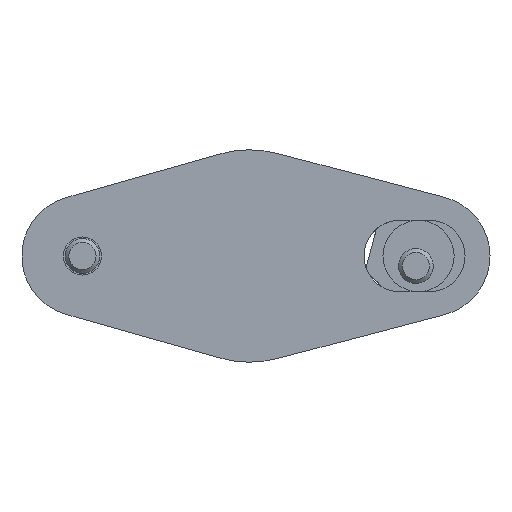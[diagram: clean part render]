
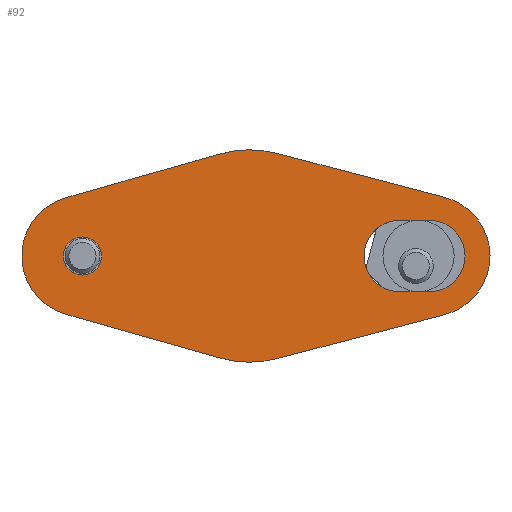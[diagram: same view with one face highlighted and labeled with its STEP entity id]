
A CAD part, front view. The second image highlights one B-rep face of the part: STEP entity #92.
In plain terms, the highlighted planar face has unit normal (0, -1, 0).
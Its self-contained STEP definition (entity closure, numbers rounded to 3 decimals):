
#92 = ADVANCED_FACE( '', ( #176, #177, #178 ), #179, .F. );
#176 = FACE_BOUND( '', #330, .T. );
#177 = FACE_BOUND( '', #331, .T. );
#178 = FACE_OUTER_BOUND( '', #332, .T. );
#179 = PLANE( '', #333 );
#330 = EDGE_LOOP( '', ( #576 ) );
#331 = EDGE_LOOP( '', ( #577, #578, #579, #580 ) );
#332 = EDGE_LOOP( '', ( #581, #582, #583, #584, #585, #586, #587, #588 ) );
#333 = AXIS2_PLACEMENT_3D( '', #589, #590, #591 );
#576 = ORIENTED_EDGE( '', *, *, #969, .T. );
#577 = ORIENTED_EDGE( '', *, *, #967, .T. );
#578 = ORIENTED_EDGE( '', *, *, #958, .T. );
#579 = ORIENTED_EDGE( '', *, *, #963, .T. );
#580 = ORIENTED_EDGE( '', *, *, #965, .T. );
#581 = ORIENTED_EDGE( '', *, *, #934, .F. );
#582 = ORIENTED_EDGE( '', *, *, #956, .F. );
#583 = ORIENTED_EDGE( '', *, *, #953, .F. );
#584 = ORIENTED_EDGE( '', *, *, #950, .F. );
#585 = ORIENTED_EDGE( '', *, *, #947, .F. );
#586 = ORIENTED_EDGE( '', *, *, #944, .F. );
#587 = ORIENTED_EDGE( '', *, *, #941, .F. );
#588 = ORIENTED_EDGE( '', *, *, #938, .F. );
#589 = CARTESIAN_POINT( '', ( -19.3, 0., 0. ) );
#590 = DIRECTION( '', ( 0., 1., 0. ) );
#591 = DIRECTION( '', ( 0., 0., 1. ) );
#934 = EDGE_CURVE( '', #1088, #1089, #1090, .T. );
#938 = EDGE_CURVE( '', #1089, #1096, #1097, .T. );
#941 = EDGE_CURVE( '', #1096, #1101, #1102, .T. );
#944 = EDGE_CURVE( '', #1101, #1106, #1107, .T. );
#947 = EDGE_CURVE( '', #1106, #1111, #1112, .T. );
#950 = EDGE_CURVE( '', #1111, #1116, #1117, .T. );
#953 = EDGE_CURVE( '', #1116, #1121, #1122, .T. );
#956 = EDGE_CURVE( '', #1121, #1088, #1126, .T. );
#958 = EDGE_CURVE( '', #1128, #1129, #1130, .T. );
#963 = EDGE_CURVE( '', #1129, #1135, #1136, .T. );
#965 = EDGE_CURVE( '', #1135, #1138, #1139, .T. );
#967 = EDGE_CURVE( '', #1138, #1128, #1141, .T. );
#969 = EDGE_CURVE( '', #1144, #1144, #1145, .T. );
#1088 = VERTEX_POINT( '', #1337 );
#1089 = VERTEX_POINT( '', #1338 );
#1090 = LINE( '', #1339, #1340 );
#1096 = VERTEX_POINT( '', #1349 );
#1097 = CIRCLE( '', #1350, 7. );
#1101 = VERTEX_POINT( '', #1355 );
#1102 = LINE( '', #1356, #1357 );
#1106 = VERTEX_POINT( '', #1363 );
#1107 = CIRCLE( '', #1364, 12.25 );
#1111 = VERTEX_POINT( '', #1369 );
#1112 = LINE( '', #1370, #1371 );
#1116 = VERTEX_POINT( '', #1377 );
#1117 = CIRCLE( '', #1378, 7. );
#1121 = VERTEX_POINT( '', #1383 );
#1122 = LINE( '', #1384, #1385 );
#1126 = CIRCLE( '', #1391, 12.25 );
#1128 = VERTEX_POINT( '', #1393 );
#1129 = VERTEX_POINT( '', #1394 );
#1130 = CIRCLE( '', #1395, 4.125 );
#1135 = VERTEX_POINT( '', #1402 );
#1136 = LINE( '', #1403, #1404 );
#1138 = VERTEX_POINT( '', #1407 );
#1139 = CIRCLE( '', #1408, 4.125 );
#1141 = LINE( '', #1411, #1412 );
#1144 = VERTEX_POINT( '', #1415 );
#1145 = CIRCLE( '', #1416, 2.2 );
#1337 = CARTESIAN_POINT( '', ( -3.332, 0., -11.788 ) );
#1338 = CARTESIAN_POINT( '', ( -21.204, 0., -6.736 ) );
#1339 = CARTESIAN_POINT( '', ( -3.332, 0., -11.788 ) );
#1340 = VECTOR( '', #1649, 1000. );
#1349 = CARTESIAN_POINT( '', ( -21.204, 0., 6.736 ) );
#1350 = AXIS2_PLACEMENT_3D( '', #1653, #1654, #1655 );
#1355 = CARTESIAN_POINT( '', ( -3.332, 0., 11.788 ) );
#1356 = CARTESIAN_POINT( '', ( -21.204, 0., 6.736 ) );
#1357 = VECTOR( '', #1660, 1000. );
#1363 = CARTESIAN_POINT( '', ( 3.107, 0., 11.849 ) );
#1364 = AXIS2_PLACEMENT_3D( '', #1663, #1664, #1665 );
#1369 = CARTESIAN_POINT( '', ( 22.475, 0., 6.771 ) );
#1370 = CARTESIAN_POINT( '', ( 3.107, 0., 11.849 ) );
#1371 = VECTOR( '', #1670, 1000. );
#1377 = CARTESIAN_POINT( '', ( 22.475, 0., -6.771 ) );
#1378 = AXIS2_PLACEMENT_3D( '', #1673, #1674, #1675 );
#1383 = CARTESIAN_POINT( '', ( 3.107, 0., -11.849 ) );
#1384 = CARTESIAN_POINT( '', ( 22.475, 0., -6.771 ) );
#1385 = VECTOR( '', #1680, 1000. );
#1391 = AXIS2_PLACEMENT_3D( '', #1683, #1684, #1685 );
#1393 = CARTESIAN_POINT( '', ( 17.3, 0., -4.125 ) );
#1394 = CARTESIAN_POINT( '', ( 17.3, 0., 4.125 ) );
#1395 = AXIS2_PLACEMENT_3D( '', #1689, #1690, #1691 );
#1402 = CARTESIAN_POINT( '', ( 20.7, 0., 4.125 ) );
#1403 = CARTESIAN_POINT( '', ( 17.3, 0., 4.125 ) );
#1404 = VECTOR( '', #1700, 1000. );
#1407 = CARTESIAN_POINT( '', ( 20.7, 0., -4.125 ) );
#1408 = AXIS2_PLACEMENT_3D( '', #1702, #1703, #1704 );
#1411 = CARTESIAN_POINT( '', ( 20.7, 0., -4.125 ) );
#1412 = VECTOR( '', #1706, 1000. );
#1415 = CARTESIAN_POINT( '', ( -17.1, 0., 0. ) );
#1416 = AXIS2_PLACEMENT_3D( '', #1710, #1711, #1712 );
#1649 = DIRECTION( '', ( -0.962, 0., 0.272 ) );
#1653 = CARTESIAN_POINT( '', ( -19.3, 0., 0. ) );
#1654 = DIRECTION( '', ( 0., 1., 0. ) );
#1655 = DIRECTION( '', ( 1., 0., 0. ) );
#1660 = DIRECTION( '', ( 0.962, 0., 0.272 ) );
#1663 = CARTESIAN_POINT( '', ( 0., 0., 0. ) );
#1664 = DIRECTION( '', ( 0., 1., 0. ) );
#1665 = DIRECTION( '', ( 1., 0., 0. ) );
#1670 = DIRECTION( '', ( 0.967, 0., -0.254 ) );
#1673 = CARTESIAN_POINT( '', ( 20.7, 0., 0. ) );
#1674 = DIRECTION( '', ( 0., 1., 0. ) );
#1675 = DIRECTION( '', ( 1., 0., 0. ) );
#1680 = DIRECTION( '', ( -0.967, 0., -0.254 ) );
#1683 = CARTESIAN_POINT( '', ( 0., 0., 0. ) );
#1684 = DIRECTION( '', ( 0., 1., 0. ) );
#1685 = DIRECTION( '', ( 1., 0., 0. ) );
#1689 = CARTESIAN_POINT( '', ( 17.3, 0., 0. ) );
#1690 = DIRECTION( '', ( 0., 1., 0. ) );
#1691 = DIRECTION( '', ( 1., 0., 0. ) );
#1700 = DIRECTION( '', ( 1., 0., 0. ) );
#1702 = CARTESIAN_POINT( '', ( 20.7, 0., 0. ) );
#1703 = DIRECTION( '', ( 0., 1., 0. ) );
#1704 = DIRECTION( '', ( 1., 0., 0. ) );
#1706 = DIRECTION( '', ( -1., 0., 0. ) );
#1710 = CARTESIAN_POINT( '', ( -19.3, 0., 0. ) );
#1711 = DIRECTION( '', ( 0., 1., 0. ) );
#1712 = DIRECTION( '', ( 1., 0., 0. ) );
